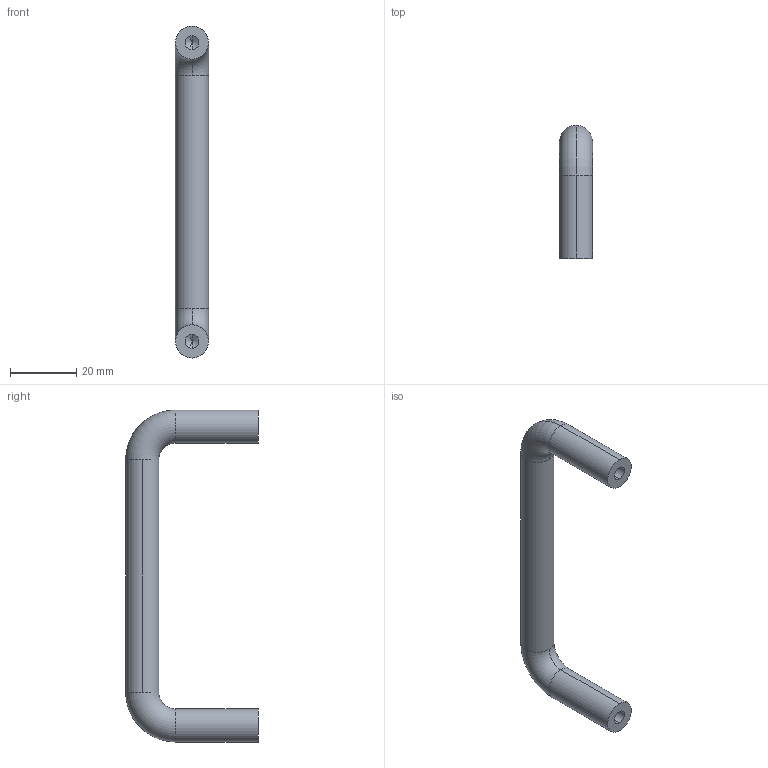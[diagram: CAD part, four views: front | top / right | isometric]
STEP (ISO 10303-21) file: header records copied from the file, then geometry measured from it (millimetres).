
FILE_DESCRIPTION (( 'STEP AP203' ), '1' );
FILE_NAME ('E03-109040.STEP', '2024-10-29T03:04:20', ( '' ), ( '' ), 'SwSTEP 2.0', 'SolidWorks 2021', '' );
FILE_SCHEMA (( 'CONFIG_CONTROL_DESIGN' ));
Length unit declared in the file: millimetre
Products named in the file (1): E03-109040
Bounding box: 10 x 40 x 100 mm (x, y, z)
Volume: 11492.6 mm3; surface area: 5288 mm2
Topology: 1 solids, 1 shells, 20 faces, 46 edges, 26 vertices
Faces by surface type: cylinder 10, torus 4, cone 4, plane 2
Entity records: 623 total; most frequent: DIRECTION 112, CARTESIAN_POINT 89, ORIENTED_EDGE 84, AXIS2_PLACEMENT_3D 49, EDGE_CURVE 42, CIRCLE 28, VERTEX_POINT 26, EDGE_LOOP 22
